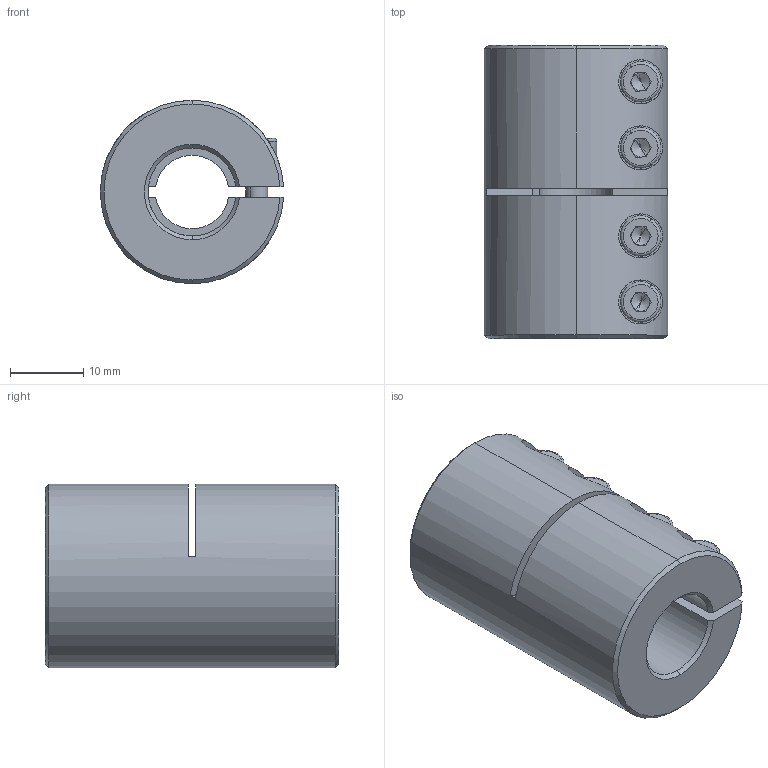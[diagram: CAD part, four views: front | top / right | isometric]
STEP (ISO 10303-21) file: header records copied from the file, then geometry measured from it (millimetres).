
FILE_DESCRIPTION (( 'STEP AP214' ), '1' );
FILE_NAME ('LL-B-D25L40-10-12½¨Ä£.STEP', '2022-07-21T05:20:37', ( '' ), ( '' ), 'SwSTEP 2.0', 'SolidWorks 2022', '' );
FILE_SCHEMA (( 'AUTOMOTIVE_DESIGN' ));
Length unit declared in the file: millimetre
Products named in the file (1): LL-B-D25L40-10-12膘耀
Bounding box: 24.98 x 40 x 25 mm (x, y, z)
Volume: 14871.6 mm3; surface area: 7149.2 mm2
Topology: 1 solids, 1 shells, 178 faces, 454 edges, 286 vertices
Faces by surface type: plane 85, cylinder 65, cone 20, torus 8
Entity records: 5830 total; most frequent: CARTESIAN_POINT 1438, DIRECTION 944, ORIENTED_EDGE 892, EDGE_CURVE 446, AXIS2_PLACEMENT_3D 364, VERTEX_POINT 286, LINE 216, VECTOR 216
